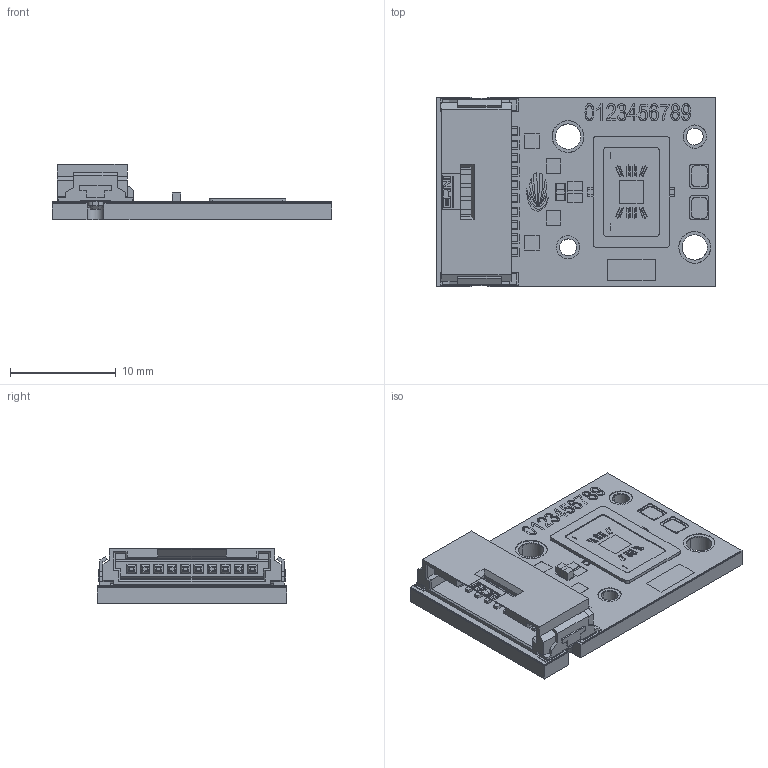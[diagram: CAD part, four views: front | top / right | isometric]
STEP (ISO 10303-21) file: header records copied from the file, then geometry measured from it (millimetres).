
FILE_DESCRIPTION(/* description */ (''),/* implementation_level */ '2;1');
FILE_NAME(/* name */ 'STE4171',/* time_stamp */ '2025-01-14T14:54:56+08:00',/* author */ (''),/* organization */ (''),/* preprocessor_version */ 'ST-DEVELOPER v16.5',/* originating_system */ '',/* authorisation */ '');
FILE_SCHEMA (('CONFIG_CONTROL_DESIGN'));
Length unit declared in the file: millimetre
Products named in the file (2): Document; 图块 01
Assembly tree (1 placements, depth 2):
  Document
    图块 01
Bounding box: 26.5 x 18 x 5.23 mm (x, y, z)
Volume: 1054.1 mm3; surface area: 1794 mm2
Topology: 4 solids, 4 shells, 884 faces, 2348 edges, 1580 vertices
Faces by surface type: plane 666, bspline 112, cylinder 106
Entity records: 38440 total; most frequent: CARTESIAN_POINT 18557, ORIENTED_EDGE 4696, EDGE_CURVE 2348, B_SPLINE_CURVE_WITH_KNOTS 2027, VERTEX_POINT 1580, EDGE_LOOP 1002, ADVANCED_FACE 884, FACE_OUTER_BOUND 884
